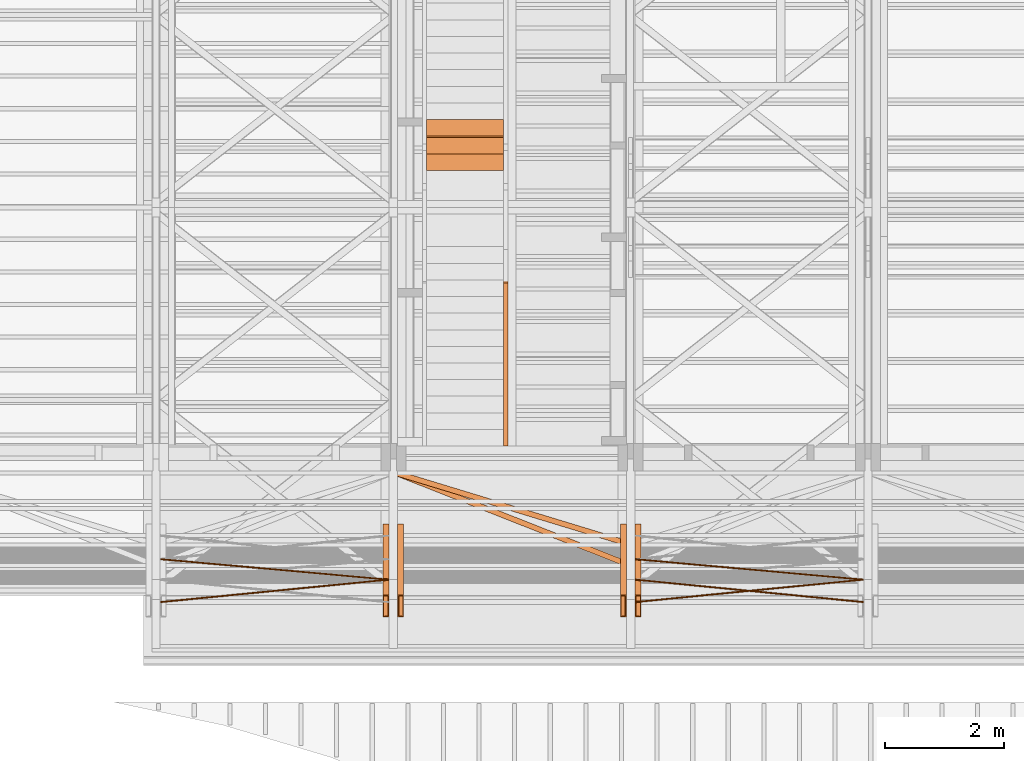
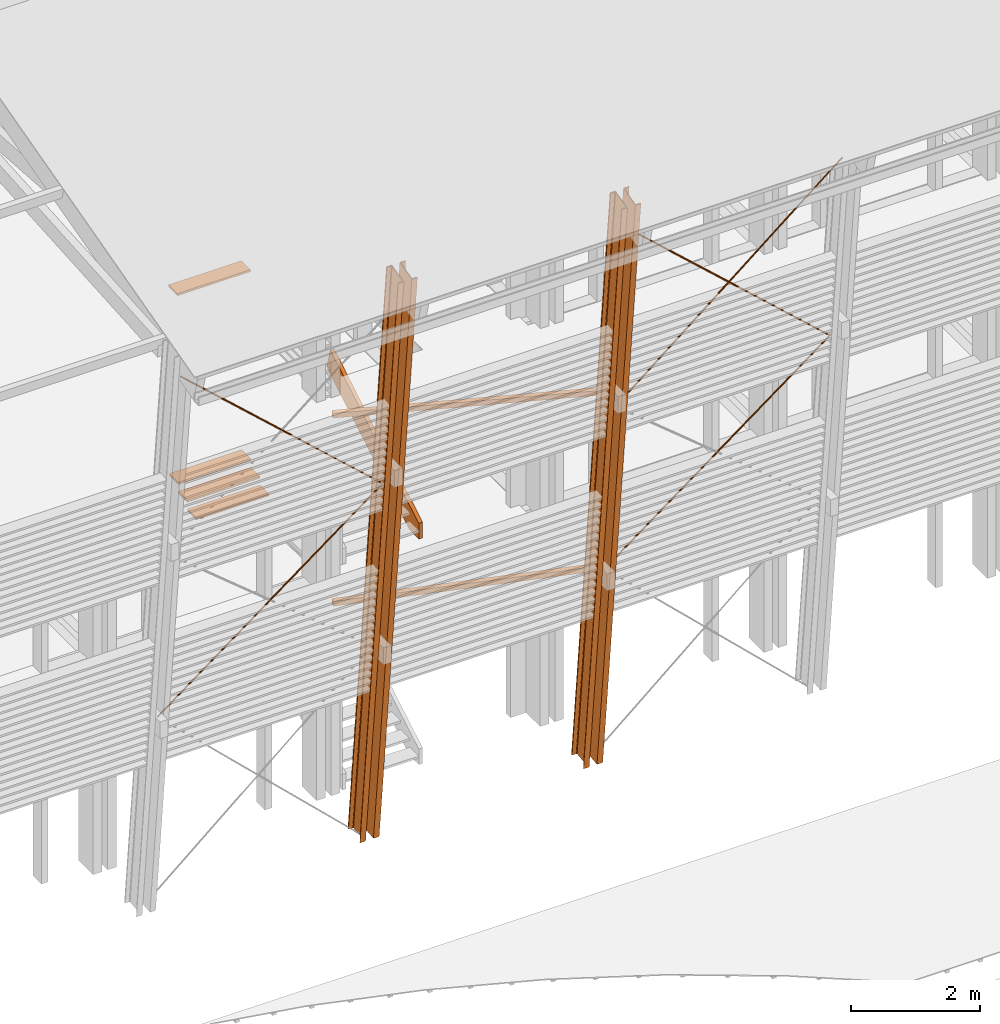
# One storey, part 37 of 48: 16 proxies.
"""IFC2X3 building model written with IfcOpenShell, lengths in metres."""

from ifc_helpers import new_model, si_unit, direction, frame, origin_with_axes, place, context, subcontext, project, spatial, faceted_brep, material, element, save


model = new_model("IFC2X3")

# Units and contexts
model_context = context("Model", 3, precision=1e-06, world=origin_with_axes(), true_north=direction((0.0, 1.0, 0.0)))
body_context = subcontext(model_context, "Body", "Model", "MODEL_VIEW")
ifc_project = project(units=[si_unit("LENGTHUNIT", "METRE"), si_unit("AREAUNIT", "SQUARE_METRE"), si_unit("VOLUMEUNIT", "CUBIC_METRE"), si_unit("PLANEANGLEUNIT", "RADIAN")], contexts=[model_context])

# Site, building, storey
site_placement = place(None, origin_with_axes())
site = spatial("IfcSite", under=ifc_project, at=site_placement, CompositionType="ELEMENT")
building_placement = place(site_placement, origin_with_axes())
building = spatial("IfcBuilding", under=site, at=building_placement, Name="Building 1", CompositionType="ELEMENT")
storey_placement = place(building_placement, origin_with_axes())
storey = spatial("IfcBuildingStorey", under=building, at=storey_placement, Name="Storey 1", CompositionType="ELEMENT", Elevation=0.0)

# Proxies
ifc_material_1 = material(Name="Acier")
proxy_1_placement = place(storey_placement, frame((45.5737433, -195.1364145, 4.089), z_axis=(-0.6523288, -0.0792259, 0.753784), x_axis=(0.7579361, -0.0681869, 0.6487553)))
element("IfcBuildingElementProxy", 1, at=proxy_1_placement, inside=storey, material=ifc_material_1, Name="CVLP", context=body_context, shape_type="Brep", body=[
    faceted_brep([(5.0558353, 0.0093969, -0.0034202), (0.0, 0.01, 0.0), (5.0558353, 0.01, 0.0), (0.0, 0.0093969, 0.0034202), (5.0558353, 0.0093969, 0.0034202), (0.0, 0.0076604, 0.0064279), (5.0558353, 0.0076604, 0.0064279), (0.0, 0.005, 0.0086603), (5.0558353, 0.005, 0.0086603), (0.0, 0.0017365, 0.0098481), (5.0558353, 0.0017365, 0.0098481), (0.0, -0.0017365, 0.0098481), (5.0558353, -0.0017365, 0.0098481), (0.0, -0.005, 0.0086603), (5.0558353, -0.005, 0.0086603), (0.0, -0.0076604, 0.0064279), (5.0558353, -0.0076604, 0.0064279), (0.0, -0.0093969, 0.0034202), (5.0558353, -0.0093969, 0.0034202), (0.0, -0.01, 0.0), (5.0558353, -0.01, 0.0), (0.0, -0.0093969, -0.0034202), (5.0558353, -0.0093969, -0.0034202), (0.0, -0.0076604, -0.0064279), (5.0558353, -0.0076604, -0.0064279), (0.0, -0.005, -0.0086603), (5.0558353, -0.005, -0.0086603), (0.0, -0.0017365, -0.0098481), (5.0558353, -0.0017365, -0.0098481), (0.0, 0.0017365, -0.0098481), (5.0558353, 0.0017365, -0.0098481), (0.0, 0.005, -0.0086603), (5.0558353, 0.005, -0.0086603), (0.0, 0.0076604, -0.0064279), (5.0558353, 0.0076604, -0.0064279), (0.0, 0.0093969, -0.0034202)], [[[0, 1, 2]], [[2, 1, 3]], [[2, 3, 4]], [[4, 3, 5]], [[4, 5, 6]], [[6, 5, 7]], [[6, 7, 8]], [[8, 7, 9]], [[8, 9, 10]], [[10, 9, 11]], [[10, 11, 12]], [[12, 11, 13]], [[12, 13, 14]], [[14, 13, 15]], [[14, 15, 16]], [[16, 15, 17]], [[16, 17, 18]], [[18, 17, 19]], [[18, 19, 20]], [[20, 19, 21]], [[20, 21, 22]], [[22, 21, 23]], [[22, 23, 24]], [[24, 23, 25]], [[24, 25, 26]], [[26, 25, 27]], [[26, 27, 28]], [[28, 27, 29]], [[28, 29, 30]], [[30, 29, 31]], [[30, 31, 32]], [[32, 31, 33]], [[32, 33, 34]], [[34, 33, 35]], [[34, 35, 0]], [[0, 35, 1]], [[10, 12, 8]], [[8, 12, 14]], [[8, 14, 6]], [[6, 14, 16]], [[6, 16, 4]], [[4, 16, 18]], [[4, 18, 2]], [[2, 18, 20]], [[2, 20, 0]], [[0, 20, 22]], [[0, 22, 34]], [[34, 22, 24]], [[34, 24, 32]], [[32, 24, 26]], [[32, 26, 30]], [[30, 26, 28]], [[29, 27, 31]], [[31, 27, 25]], [[31, 25, 33]], [[33, 25, 23]], [[33, 23, 35]], [[35, 23, 21]], [[35, 21, 1]], [[1, 21, 19]], [[1, 19, 3]], [[3, 19, 17]], [[3, 17, 5]], [[5, 17, 15]], [[5, 15, 7]], [[7, 15, 13]], [[7, 13, 9]], [[9, 13, 11]]]),
])
proxy_2_placement = place(storey_placement, frame((49.4057433, -195.4811564, 7.369), z_axis=(0.6859491, -0.0760601, 0.7236634), x_axis=(-0.7276496, -0.0717012, 0.6821914)))
element("IfcBuildingElementProxy", 2, at=proxy_2_placement, inside=storey, material=ifc_material_1, Name="CVLP", context=body_context, shape_type="Brep", body=[
    faceted_brep([(5.2662712, 0.0093969, -0.0034202), (0.0, 0.01, 0.0), (5.2662712, 0.01, 0.0), (0.0, 0.0093969, 0.0034202), (5.2662712, 0.0093969, 0.0034202), (0.0, 0.0076604, 0.0064279), (5.2662712, 0.0076604, 0.0064279), (0.0, 0.005, 0.0086603), (5.2662712, 0.005, 0.0086603), (0.0, 0.0017365, 0.0098481), (5.2662712, 0.0017365, 0.0098481), (0.0, -0.0017365, 0.0098481), (5.2662712, -0.0017365, 0.0098481), (0.0, -0.005, 0.0086603), (5.2662712, -0.005, 0.0086603), (0.0, -0.0076604, 0.0064279), (5.2662712, -0.0076604, 0.0064279), (0.0, -0.0093969, 0.0034202), (5.2662712, -0.0093969, 0.0034202), (0.0, -0.01, 0.0), (5.2662712, -0.01, 0.0), (0.0, -0.0093969, -0.0034202), (5.2662712, -0.0093969, -0.0034202), (0.0, -0.0076604, -0.0064279), (5.2662712, -0.0076604, -0.0064279), (0.0, -0.005, -0.0086603), (5.2662712, -0.005, -0.0086603), (0.0, -0.0017365, -0.0098481), (5.2662712, -0.0017365, -0.0098481), (0.0, 0.0017365, -0.0098481), (5.2662712, 0.0017365, -0.0098481), (0.0, 0.005, -0.0086603), (5.2662712, 0.005, -0.0086603), (0.0, 0.0076604, -0.0064279), (5.2662712, 0.0076604, -0.0064279), (0.0, 0.0093969, -0.0034202)], [[[0, 1, 2]], [[2, 1, 3]], [[2, 3, 4]], [[4, 3, 5]], [[4, 5, 6]], [[6, 5, 7]], [[6, 7, 8]], [[8, 7, 9]], [[8, 9, 10]], [[10, 9, 11]], [[10, 11, 12]], [[12, 11, 13]], [[12, 13, 14]], [[14, 13, 15]], [[14, 15, 16]], [[16, 15, 17]], [[16, 17, 18]], [[18, 17, 19]], [[18, 19, 20]], [[20, 19, 21]], [[20, 21, 22]], [[22, 21, 23]], [[22, 23, 24]], [[24, 23, 25]], [[24, 25, 26]], [[26, 25, 27]], [[26, 27, 28]], [[28, 27, 29]], [[28, 29, 30]], [[30, 29, 31]], [[30, 31, 32]], [[32, 31, 33]], [[32, 33, 34]], [[34, 33, 35]], [[34, 35, 0]], [[0, 35, 1]], [[10, 12, 8]], [[8, 12, 14]], [[8, 14, 6]], [[6, 14, 16]], [[6, 16, 4]], [[4, 16, 18]], [[4, 18, 2]], [[2, 18, 20]], [[2, 20, 0]], [[0, 20, 22]], [[0, 22, 34]], [[34, 22, 24]], [[34, 24, 32]], [[32, 24, 26]], [[32, 26, 30]], [[30, 26, 28]], [[29, 27, 31]], [[31, 27, 25]], [[31, 25, 33]], [[33, 25, 23]], [[33, 23, 35]], [[35, 23, 21]], [[35, 21, 1]], [[1, 21, 19]], [[1, 19, 3]], [[3, 19, 17]], [[3, 17, 5]], [[5, 17, 15]], [[5, 15, 7]], [[7, 15, 13]], [[7, 13, 9]], [[9, 13, 11]]]),
])
proxy_3_placement = place(storey_placement, frame((45.5737441, -195.4811564, 7.369), z_axis=(-0.6859491, -0.0760601, 0.7236634), x_axis=(0.7276496, -0.0717012, 0.6821914)))
element("IfcBuildingElementProxy", 3, at=proxy_3_placement, inside=storey, material=ifc_material_1, Name="CVLP", context=body_context, shape_type="Brep", body=[
    faceted_brep([(5.2662712, -0.0093969, 0.0034202), (0.0, -0.01, 0.0), (5.2662712, -0.01, 0.0), (0.0, -0.0093969, -0.0034202), (5.2662712, -0.0093969, -0.0034202), (0.0, -0.0076604, -0.0064279), (5.2662712, -0.0076604, -0.0064279), (0.0, -0.005, -0.0086603), (5.2662712, -0.005, -0.0086603), (0.0, -0.0017365, -0.0098481), (5.2662712, -0.0017365, -0.0098481), (0.0, 0.0017365, -0.0098481), (5.2662712, 0.0017365, -0.0098481), (0.0, 0.005, -0.0086603), (5.2662712, 0.005, -0.0086603), (0.0, 0.0076604, -0.0064279), (5.2662712, 0.0076604, -0.0064279), (0.0, 0.0093969, -0.0034202), (5.2662712, 0.0093969, -0.0034202), (0.0, 0.01, 0.0), (5.2662712, 0.01, 0.0), (0.0, 0.0093969, 0.0034202), (5.2662712, 0.0093969, 0.0034202), (0.0, 0.0076604, 0.0064279), (5.2662712, 0.0076604, 0.0064279), (0.0, 0.005, 0.0086603), (5.2662712, 0.005, 0.0086603), (0.0, 0.0017365, 0.0098481), (5.2662712, 0.0017365, 0.0098481), (0.0, -0.0017365, 0.0098481), (5.2662712, -0.0017365, 0.0098481), (0.0, -0.005, 0.0086603), (5.2662712, -0.005, 0.0086603), (0.0, -0.0076604, 0.0064279), (5.2662712, -0.0076604, 0.0064279), (0.0, -0.0093969, 0.0034202)], [[[0, 1, 2]], [[2, 1, 3]], [[2, 3, 4]], [[4, 3, 5]], [[4, 5, 6]], [[6, 5, 7]], [[6, 7, 8]], [[8, 7, 9]], [[8, 9, 10]], [[10, 9, 11]], [[10, 11, 12]], [[12, 11, 13]], [[12, 13, 14]], [[14, 13, 15]], [[14, 15, 16]], [[16, 15, 17]], [[16, 17, 18]], [[18, 17, 19]], [[18, 19, 20]], [[20, 19, 21]], [[20, 21, 22]], [[22, 21, 23]], [[22, 23, 24]], [[24, 23, 25]], [[24, 25, 26]], [[26, 25, 27]], [[26, 27, 28]], [[28, 27, 29]], [[28, 29, 30]], [[30, 29, 31]], [[30, 31, 32]], [[32, 31, 33]], [[32, 33, 34]], [[34, 33, 35]], [[34, 35, 0]], [[0, 35, 1]], [[10, 12, 8]], [[8, 12, 14]], [[8, 14, 6]], [[6, 14, 16]], [[6, 16, 4]], [[4, 16, 18]], [[4, 18, 2]], [[2, 18, 20]], [[2, 20, 0]], [[0, 20, 22]], [[0, 22, 34]], [[34, 22, 24]], [[34, 24, 32]], [[32, 24, 26]], [[32, 26, 30]], [[30, 26, 28]], [[29, 27, 31]], [[31, 27, 25]], [[31, 25, 33]], [[33, 25, 23]], [[33, 23, 35]], [[35, 23, 21]], [[35, 21, 1]], [[1, 21, 19]], [[1, 19, 3]], [[3, 19, 17]], [[3, 17, 5]], [[5, 17, 15]], [[5, 15, 7]], [[7, 15, 13]], [[7, 13, 9]], [[9, 13, 11]]]),
])
proxy_4_placement = place(storey_placement, frame((45.3687437, -195.9301471, 11.6408612), z_axis=(0.0, 0.9945219, 0.1045285), x_axis=(0.0, 0.1045285, -0.9945219)))
element("IfcBuildingElementProxy", 4, at=proxy_4_placement, inside=storey, material=ifc_material_1, Name="Poteau", context=body_context, shape_type="Brep", body=[
    faceted_brep([(0.0588262, 0.0506328, -0.181414), (0.0592057, 0.051, -0.18381), (0.0579402, 0.0433995, -0.17582), (0.0601861, 0.051, -0.19), (0.0574199, -0.022299, -0.172535), (0.0601861, -0.051, -0.19), (0.0572658, -0.0270483, -0.1715622), (0.0568935, -0.0312883, -0.1692116), (0.0038489, -0.0346296, 0.165699), (0.0045382, -0.0367655, 0.161347), (0.0, -0.051, 0.19), (0.0052972, -0.0375, 0.156555), (0.0548889, -0.0375, -0.156555), (0.0556479, -0.0367655, -0.161347), (0.0009804, 0.051, 0.18381), (0.0022459, 0.0433995, 0.17582), (0.0, 0.051, 0.19), (0.0027662, -0.022299, 0.172535), (0.0029203, -0.0270483, 0.1715622), (0.0032926, -0.0312883, 0.1692116), (0.0013599, 0.0506328, 0.181414), (0.0017045, 0.0495648, 0.179238), (0.0019827, 0.0478941, 0.1774817), (0.0021689, 0.0457742, 0.1763064), (0.0563372, -0.0346296, -0.165699), (0.0580172, 0.0457742, -0.1763064), (0.0582034, 0.0478941, -0.1774817), (0.0584816, 0.0495648, -0.179238), (11.420672, 0.0433995, 0.17582), (11.420672, 0.0457742, 0.1763064), (11.420672, 0.0478941, 0.1774817), (11.420672, 0.0495648, 0.179238), (11.420672, 0.0506328, 0.181414), (11.420672, 0.051, 0.18381), (11.420672, 0.051, 0.19), (11.420672, -0.051, 0.19), (11.420672, -0.051, -0.19), (11.420672, 0.051, -0.19), (11.420672, 0.051, -0.18381), (11.420672, 0.0506328, -0.181414), (11.420672, 0.0495648, -0.179238), (11.420672, 0.0478941, -0.1774817), (11.420672, 0.0457742, -0.1763064), (11.420672, 0.0433995, -0.17582), (11.420672, -0.022299, -0.172535), (11.420672, -0.0270483, -0.1715622), (11.420672, -0.0312883, -0.1692116), (11.420672, -0.0346296, -0.165699), (11.420672, -0.0367655, -0.161347), (11.420672, -0.0375, -0.156555), (11.420672, -0.0375, 0.156555), (11.420672, -0.0367655, 0.161347), (11.420672, -0.0346296, 0.165699), (11.420672, -0.0312883, 0.1692116), (11.420672, -0.0270483, 0.1715622), (11.420672, -0.022299, 0.172535)], [[[0, 1, 2]], [[2, 1, 3]], [[2, 3, 4]], [[4, 3, 5]], [[4, 5, 6]], [[6, 5, 7]], [[8, 9, 10]], [[10, 9, 11]], [[10, 11, 5]], [[5, 11, 12]], [[5, 12, 13]], [[14, 15, 16]], [[16, 15, 17]], [[16, 17, 10]], [[10, 17, 18]], [[10, 18, 19]], [[14, 20, 15]], [[15, 20, 21]], [[15, 21, 22]], [[22, 23, 15]], [[19, 8, 10]], [[13, 24, 5]], [[5, 24, 7]], [[25, 26, 2]], [[2, 26, 27]], [[2, 27, 0]], [[15, 23, 28]], [[28, 23, 29]], [[23, 22, 29]], [[29, 22, 30]], [[22, 21, 30]], [[30, 21, 31]], [[21, 20, 31]], [[31, 20, 32]], [[20, 14, 32]], [[32, 14, 33]], [[16, 34, 14]], [[14, 34, 33]], [[10, 5, 35]], [[35, 5, 36]], [[5, 3, 36]], [[36, 3, 37]], [[1, 38, 3]], [[3, 38, 37]], [[1, 0, 38]], [[38, 0, 39]], [[0, 27, 39]], [[39, 27, 40]], [[27, 26, 40]], [[40, 26, 41]], [[26, 25, 41]], [[41, 25, 42]], [[25, 2, 42]], [[42, 2, 43]], [[4, 44, 2]], [[2, 44, 43]], [[4, 6, 44]], [[44, 6, 45]], [[6, 7, 45]], [[45, 7, 46]], [[7, 24, 46]], [[46, 24, 47]], [[24, 13, 47]], [[47, 13, 48]], [[13, 12, 48]], [[48, 12, 49]], [[11, 50, 12]], [[12, 50, 49]], [[11, 9, 50]], [[50, 9, 51]], [[9, 8, 51]], [[51, 8, 52]], [[8, 19, 52]], [[52, 19, 53]], [[19, 18, 53]], [[53, 18, 54]], [[18, 17, 54]], [[54, 17, 55]], [[15, 28, 17]], [[17, 28, 55]], [[35, 34, 10]], [[10, 34, 16]], [[48, 49, 36]], [[36, 49, 50]], [[36, 50, 35]], [[35, 50, 51]], [[35, 51, 52]], [[41, 42, 38]], [[38, 42, 43]], [[38, 43, 37]], [[37, 43, 44]], [[37, 44, 36]], [[36, 44, 45]], [[36, 45, 46]], [[39, 40, 38]], [[38, 40, 41]], [[46, 47, 36]], [[36, 47, 48]], [[52, 53, 35]], [[35, 53, 54]], [[35, 54, 55]], [[35, 55, 34]], [[34, 55, 28]], [[34, 28, 33]], [[33, 28, 32]], [[29, 30, 28]], [[28, 30, 31]], [[28, 31, 32]]]),
])
proxy_5_placement = place(storey_placement, frame((41.4057433, -195.4811564, 7.369), z_axis=(0.6859491, -0.0760601, 0.7236634), x_axis=(-0.7276496, -0.0717012, 0.6821914)))
element("IfcBuildingElementProxy", 5, at=proxy_5_placement, inside=storey, material=ifc_material_1, Name="CVLP", context=body_context, shape_type="Brep", body=[
    faceted_brep([(5.2662712, 0.0093969, -0.0034202), (0.0, 0.01, 0.0), (5.2662712, 0.01, 0.0), (0.0, 0.0093969, 0.0034202), (5.2662712, 0.0093969, 0.0034202), (0.0, 0.0076604, 0.0064279), (5.2662712, 0.0076604, 0.0064279), (0.0, 0.005, 0.0086603), (5.2662712, 0.005, 0.0086603), (0.0, 0.0017365, 0.0098481), (5.2662712, 0.0017365, 0.0098481), (0.0, -0.0017365, 0.0098481), (5.2662712, -0.0017365, 0.0098481), (0.0, -0.005, 0.0086603), (5.2662712, -0.005, 0.0086603), (0.0, -0.0076604, 0.0064279), (5.2662712, -0.0076604, 0.0064279), (0.0, -0.0093969, 0.0034202), (5.2662712, -0.0093969, 0.0034202), (0.0, -0.01, 0.0), (5.2662712, -0.01, 0.0), (0.0, -0.0093969, -0.0034202), (5.2662712, -0.0093969, -0.0034202), (0.0, -0.0076604, -0.0064279), (5.2662712, -0.0076604, -0.0064279), (0.0, -0.005, -0.0086603), (5.2662712, -0.005, -0.0086603), (0.0, -0.0017365, -0.0098481), (5.2662712, -0.0017365, -0.0098481), (0.0, 0.0017365, -0.0098481), (5.2662712, 0.0017365, -0.0098481), (0.0, 0.005, -0.0086603), (5.2662712, 0.005, -0.0086603), (0.0, 0.0076604, -0.0064279), (5.2662712, 0.0076604, -0.0064279), (0.0, 0.0093969, -0.0034202)], [[[0, 1, 2]], [[2, 1, 3]], [[2, 3, 4]], [[4, 3, 5]], [[4, 5, 6]], [[6, 5, 7]], [[6, 7, 8]], [[8, 7, 9]], [[8, 9, 10]], [[10, 9, 11]], [[10, 11, 12]], [[12, 11, 13]], [[12, 13, 14]], [[14, 13, 15]], [[14, 15, 16]], [[16, 15, 17]], [[16, 17, 18]], [[18, 17, 19]], [[18, 19, 20]], [[20, 19, 21]], [[20, 21, 22]], [[22, 21, 23]], [[22, 23, 24]], [[24, 23, 25]], [[24, 25, 26]], [[26, 25, 27]], [[26, 27, 28]], [[28, 27, 29]], [[28, 29, 30]], [[30, 29, 31]], [[30, 31, 32]], [[32, 31, 33]], [[32, 33, 34]], [[34, 33, 35]], [[34, 35, 0]], [[0, 35, 1]], [[10, 12, 8]], [[8, 12, 14]], [[8, 14, 6]], [[6, 14, 16]], [[6, 16, 4]], [[4, 16, 18]], [[4, 18, 2]], [[2, 18, 20]], [[2, 20, 0]], [[0, 20, 22]], [[0, 22, 34]], [[34, 22, 24]], [[34, 24, 32]], [[32, 24, 26]], [[32, 26, 30]], [[30, 26, 28]], [[29, 27, 31]], [[31, 27, 25]], [[31, 25, 33]], [[33, 25, 23]], [[33, 23, 35]], [[35, 23, 21]], [[35, 21, 1]], [[1, 21, 19]], [[1, 19, 3]], [[3, 19, 17]], [[3, 17, 5]], [[5, 17, 15]], [[5, 15, 7]], [[7, 15, 13]], [[7, 13, 9]], [[9, 13, 11]]]),
])
proxy_6_placement = place(storey_placement, frame((37.5737433, -195.1364145, 4.089), z_axis=(-0.6523288, -0.0792259, 0.753784), x_axis=(0.7579361, -0.0681869, 0.6487553)))
element("IfcBuildingElementProxy", 6, at=proxy_6_placement, inside=storey, material=ifc_material_1, Name="CVLP", context=body_context, shape_type="Brep", body=[
    faceted_brep([(5.0558353, 0.0093969, -0.0034202), (0.0, 0.01, 0.0), (5.0558353, 0.01, 0.0), (0.0, 0.0093969, 0.0034202), (5.0558353, 0.0093969, 0.0034202), (0.0, 0.0076604, 0.0064279), (5.0558353, 0.0076604, 0.0064279), (0.0, 0.005, 0.0086603), (5.0558353, 0.005, 0.0086603), (0.0, 0.0017365, 0.0098481), (5.0558353, 0.0017365, 0.0098481), (0.0, -0.0017365, 0.0098481), (5.0558353, -0.0017365, 0.0098481), (0.0, -0.005, 0.0086603), (5.0558353, -0.005, 0.0086603), (0.0, -0.0076604, 0.0064279), (5.0558353, -0.0076604, 0.0064279), (0.0, -0.0093969, 0.0034202), (5.0558353, -0.0093969, 0.0034202), (0.0, -0.01, 0.0), (5.0558353, -0.01, 0.0), (0.0, -0.0093969, -0.0034202), (5.0558353, -0.0093969, -0.0034202), (0.0, -0.0076604, -0.0064279), (5.0558353, -0.0076604, -0.0064279), (0.0, -0.005, -0.0086603), (5.0558353, -0.005, -0.0086603), (0.0, -0.0017365, -0.0098481), (5.0558353, -0.0017365, -0.0098481), (0.0, 0.0017365, -0.0098481), (5.0558353, 0.0017365, -0.0098481), (0.0, 0.005, -0.0086603), (5.0558353, 0.005, -0.0086603), (0.0, 0.0076604, -0.0064279), (5.0558353, 0.0076604, -0.0064279), (0.0, 0.0093969, -0.0034202)], [[[0, 1, 2]], [[2, 1, 3]], [[2, 3, 4]], [[4, 3, 5]], [[4, 5, 6]], [[6, 5, 7]], [[6, 7, 8]], [[8, 7, 9]], [[8, 9, 10]], [[10, 9, 11]], [[10, 11, 12]], [[12, 11, 13]], [[12, 13, 14]], [[14, 13, 15]], [[14, 15, 16]], [[16, 15, 17]], [[16, 17, 18]], [[18, 17, 19]], [[18, 19, 20]], [[20, 19, 21]], [[20, 21, 22]], [[22, 21, 23]], [[22, 23, 24]], [[24, 23, 25]], [[24, 25, 26]], [[26, 25, 27]], [[26, 27, 28]], [[28, 27, 29]], [[28, 29, 30]], [[30, 29, 31]], [[30, 31, 32]], [[32, 31, 33]], [[32, 33, 34]], [[34, 33, 35]], [[34, 35, 0]], [[0, 35, 1]], [[10, 12, 8]], [[8, 12, 14]], [[8, 14, 6]], [[6, 14, 16]], [[6, 16, 4]], [[4, 16, 18]], [[4, 18, 2]], [[2, 18, 20]], [[2, 20, 0]], [[0, 20, 22]], [[0, 22, 34]], [[34, 22, 24]], [[34, 24, 32]], [[32, 24, 26]], [[32, 26, 30]], [[30, 26, 28]], [[29, 27, 31]], [[31, 27, 25]], [[31, 25, 33]], [[33, 25, 23]], [[33, 23, 35]], [[35, 23, 21]], [[35, 21, 1]], [[1, 21, 19]], [[1, 19, 3]], [[3, 19, 17]], [[3, 17, 5]], [[5, 17, 15]], [[5, 15, 7]], [[7, 15, 13]], [[7, 13, 9]], [[9, 13, 11]]]),
])
proxy_7_placement = place(storey_placement, frame((41.6107437, -195.9301471, 11.6408612), z_axis=(0.0, 0.9945219, 0.1045285), x_axis=(0.0, 0.1045285, -0.9945219)))
element("IfcBuildingElementProxy", 7, at=proxy_7_placement, inside=storey, material=ifc_material_1, Name="Poteau", context=body_context, shape_type="Brep", body=[
    faceted_brep([(0.0556479, 0.0367655, -0.161347), (0.0548889, 0.0375, -0.156555), (0.0601861, 0.051, -0.19), (0.0052972, 0.0375, 0.156555), (0.0, 0.051, 0.19), (0.0045382, 0.0367655, 0.161347), (0.0038489, 0.0346296, 0.165699), (0.0592057, -0.051, -0.18381), (0.0579402, -0.0433995, -0.17582), (0.0601861, -0.051, -0.19), (0.0574199, 0.022299, -0.172535), (0.0572658, 0.0270483, -0.1715622), (0.0568935, 0.0312883, -0.1692116), (0.0588262, -0.0506328, -0.181414), (0.0584816, -0.0495648, -0.179238), (0.0582034, -0.0478941, -0.1774817), (0.0580172, -0.0457742, -0.1763064), (0.0563372, 0.0346296, -0.165699), (0.0032926, 0.0312883, 0.1692116), (0.0029203, 0.0270483, 0.1715622), (0.0027662, 0.022299, 0.172535), (0.0, -0.051, 0.19), (0.0022459, -0.0433995, 0.17582), (0.0009804, -0.051, 0.18381), (0.0013599, -0.0506328, 0.181414), (0.0021689, -0.0457742, 0.1763064), (0.0019827, -0.0478941, 0.1774817), (0.0017045, -0.0495648, 0.179238), (11.420672, 0.0375, -0.156555), (11.420672, 0.0367655, -0.161347), (11.420672, 0.0346296, -0.165699), (11.420672, 0.0312883, -0.1692116), (11.420672, 0.0270483, -0.1715622), (11.420672, 0.022299, -0.172535), (11.420672, -0.0433995, -0.17582), (11.420672, -0.0457742, -0.1763064), (11.420672, -0.0478941, -0.1774817), (11.420672, -0.0495648, -0.179238), (11.420672, -0.0506328, -0.181414), (11.420672, -0.051, -0.18381), (11.420672, -0.051, -0.19), (11.420672, 0.051, -0.19), (11.420672, 0.051, 0.19), (11.420672, -0.051, 0.19), (11.420672, -0.051, 0.18381), (11.420672, -0.0506328, 0.181414), (11.420672, -0.0495648, 0.179238), (11.420672, -0.0478941, 0.1774817), (11.420672, -0.0457742, 0.1763064), (11.420672, -0.0433995, 0.17582), (11.420672, 0.022299, 0.172535), (11.420672, 0.0270483, 0.1715622), (11.420672, 0.0312883, 0.1692116), (11.420672, 0.0346296, 0.165699), (11.420672, 0.0367655, 0.161347), (11.420672, 0.0375, 0.156555)], [[[0, 1, 2]], [[2, 1, 3]], [[2, 3, 4]], [[4, 3, 5]], [[4, 5, 6]], [[7, 8, 9]], [[9, 8, 10]], [[9, 10, 2]], [[2, 10, 11]], [[2, 11, 12]], [[7, 13, 8]], [[8, 13, 14]], [[8, 14, 15]], [[15, 16, 8]], [[12, 17, 2]], [[2, 17, 0]], [[6, 18, 4]], [[4, 18, 19]], [[4, 19, 20]], [[4, 20, 21]], [[21, 20, 22]], [[21, 22, 23]], [[23, 22, 24]], [[25, 26, 22]], [[22, 26, 27]], [[22, 27, 24]], [[1, 0, 28]], [[28, 0, 29]], [[0, 17, 29]], [[29, 17, 30]], [[17, 12, 30]], [[30, 12, 31]], [[12, 11, 31]], [[31, 11, 32]], [[11, 10, 32]], [[32, 10, 33]], [[10, 8, 33]], [[33, 8, 34]], [[8, 16, 34]], [[34, 16, 35]], [[16, 15, 35]], [[35, 15, 36]], [[15, 14, 36]], [[36, 14, 37]], [[14, 13, 37]], [[37, 13, 38]], [[13, 7, 38]], [[38, 7, 39]], [[7, 9, 39]], [[39, 9, 40]], [[9, 2, 40]], [[40, 2, 41]], [[4, 42, 2]], [[2, 42, 41]], [[43, 42, 21]], [[21, 42, 4]], [[21, 23, 43]], [[43, 23, 44]], [[23, 24, 44]], [[44, 24, 45]], [[24, 27, 45]], [[45, 27, 46]], [[27, 26, 46]], [[46, 26, 47]], [[26, 25, 47]], [[47, 25, 48]], [[25, 22, 48]], [[48, 22, 49]], [[22, 20, 49]], [[49, 20, 50]], [[20, 19, 50]], [[50, 19, 51]], [[19, 18, 51]], [[51, 18, 52]], [[18, 6, 52]], [[52, 6, 53]], [[6, 5, 53]], [[53, 5, 54]], [[5, 3, 54]], [[54, 3, 55]], [[3, 1, 55]], [[55, 1, 28]], [[53, 54, 42]], [[42, 54, 55]], [[42, 55, 41]], [[41, 55, 28]], [[41, 28, 29]], [[44, 49, 43]], [[43, 49, 50]], [[43, 50, 42]], [[42, 50, 51]], [[42, 51, 52]], [[44, 45, 49]], [[49, 45, 46]], [[49, 46, 47]], [[47, 48, 49]], [[52, 53, 42]], [[29, 30, 41]], [[41, 30, 31]], [[41, 31, 32]], [[32, 33, 41]], [[41, 33, 40]], [[33, 34, 40]], [[40, 34, 39]], [[34, 35, 39]], [[39, 35, 36]], [[39, 36, 37]], [[37, 38, 39]]]),
])
proxy_8_placement = place(storey_placement, frame((41.3687437, -195.9301471, 11.6408612), z_axis=(0.0, 0.9945219, 0.1045285), x_axis=(0.0, 0.1045285, -0.9945219)))
element("IfcBuildingElementProxy", 8, at=proxy_8_placement, inside=storey, material=ifc_material_1, Name="Poteau", context=body_context, shape_type="Brep", body=[
    faceted_brep([(0.0588262, 0.0506328, -0.181414), (0.0592057, 0.051, -0.18381), (0.0579402, 0.0433995, -0.17582), (0.0601861, 0.051, -0.19), (0.0574199, -0.022299, -0.172535), (0.0601861, -0.051, -0.19), (0.0572658, -0.0270483, -0.1715622), (0.0568935, -0.0312883, -0.1692116), (0.0038489, -0.0346296, 0.165699), (0.0045382, -0.0367655, 0.161347), (0.0, -0.051, 0.19), (0.0052972, -0.0375, 0.156555), (0.0548889, -0.0375, -0.156555), (0.0556479, -0.0367655, -0.161347), (0.0009804, 0.051, 0.18381), (0.0022459, 0.0433995, 0.17582), (0.0, 0.051, 0.19), (0.0027662, -0.022299, 0.172535), (0.0029203, -0.0270483, 0.1715622), (0.0032926, -0.0312883, 0.1692116), (0.0013599, 0.0506328, 0.181414), (0.0017045, 0.0495648, 0.179238), (0.0019827, 0.0478941, 0.1774817), (0.0021689, 0.0457742, 0.1763064), (0.0563372, -0.0346296, -0.165699), (0.0580172, 0.0457742, -0.1763064), (0.0582034, 0.0478941, -0.1774817), (0.0584816, 0.0495648, -0.179238), (11.420672, 0.0433995, 0.17582), (11.420672, 0.0457742, 0.1763064), (11.420672, 0.0478941, 0.1774817), (11.420672, 0.0495648, 0.179238), (11.420672, 0.0506328, 0.181414), (11.420672, 0.051, 0.18381), (11.420672, 0.051, 0.19), (11.420672, -0.051, 0.19), (11.420672, -0.051, -0.19), (11.420672, 0.051, -0.19), (11.420672, 0.051, -0.18381), (11.420672, 0.0506328, -0.181414), (11.420672, 0.0495648, -0.179238), (11.420672, 0.0478941, -0.1774817), (11.420672, 0.0457742, -0.1763064), (11.420672, 0.0433995, -0.17582), (11.420672, -0.022299, -0.172535), (11.420672, -0.0270483, -0.1715622), (11.420672, -0.0312883, -0.1692116), (11.420672, -0.0346296, -0.165699), (11.420672, -0.0367655, -0.161347), (11.420672, -0.0375, -0.156555), (11.420672, -0.0375, 0.156555), (11.420672, -0.0367655, 0.161347), (11.420672, -0.0346296, 0.165699), (11.420672, -0.0312883, 0.1692116), (11.420672, -0.0270483, 0.1715622), (11.420672, -0.022299, 0.172535)], [[[0, 1, 2]], [[2, 1, 3]], [[2, 3, 4]], [[4, 3, 5]], [[4, 5, 6]], [[6, 5, 7]], [[8, 9, 10]], [[10, 9, 11]], [[10, 11, 5]], [[5, 11, 12]], [[5, 12, 13]], [[14, 15, 16]], [[16, 15, 17]], [[16, 17, 10]], [[10, 17, 18]], [[10, 18, 19]], [[14, 20, 15]], [[15, 20, 21]], [[15, 21, 22]], [[22, 23, 15]], [[19, 8, 10]], [[13, 24, 5]], [[5, 24, 7]], [[25, 26, 2]], [[2, 26, 27]], [[2, 27, 0]], [[15, 23, 28]], [[28, 23, 29]], [[23, 22, 29]], [[29, 22, 30]], [[22, 21, 30]], [[30, 21, 31]], [[21, 20, 31]], [[31, 20, 32]], [[20, 14, 32]], [[32, 14, 33]], [[16, 34, 14]], [[14, 34, 33]], [[10, 5, 35]], [[35, 5, 36]], [[5, 3, 36]], [[36, 3, 37]], [[1, 38, 3]], [[3, 38, 37]], [[1, 0, 38]], [[38, 0, 39]], [[0, 27, 39]], [[39, 27, 40]], [[27, 26, 40]], [[40, 26, 41]], [[26, 25, 41]], [[41, 25, 42]], [[25, 2, 42]], [[42, 2, 43]], [[4, 44, 2]], [[2, 44, 43]], [[4, 6, 44]], [[44, 6, 45]], [[6, 7, 45]], [[45, 7, 46]], [[7, 24, 46]], [[46, 24, 47]], [[24, 13, 47]], [[47, 13, 48]], [[13, 12, 48]], [[48, 12, 49]], [[11, 50, 12]], [[12, 50, 49]], [[11, 9, 50]], [[50, 9, 51]], [[9, 8, 51]], [[51, 8, 52]], [[8, 19, 52]], [[52, 19, 53]], [[19, 18, 53]], [[53, 18, 54]], [[18, 17, 54]], [[54, 17, 55]], [[15, 28, 17]], [[17, 28, 55]], [[35, 34, 10]], [[10, 34, 16]], [[48, 49, 36]], [[36, 49, 50]], [[36, 50, 35]], [[35, 50, 51]], [[35, 51, 52]], [[41, 42, 38]], [[38, 42, 43]], [[38, 43, 37]], [[37, 43, 44]], [[37, 44, 36]], [[36, 44, 45]], [[36, 45, 46]], [[39, 40, 38]], [[38, 40, 41]], [[46, 47, 36]], [[36, 47, 48]], [[52, 53, 35]], [[35, 53, 54]], [[35, 54, 55]], [[35, 55, 34]], [[34, 55, 28]], [[34, 28, 33]], [[33, 28, 32]], [[29, 30, 28]], [[28, 30, 31]], [[28, 31, 32]]]),
])
proxy_9_placement = place(storey_placement, frame((45.6107437, -195.9301471, 11.6408612), z_axis=(0.0, 0.9945219, 0.1045285), x_axis=(0.0, 0.1045285, -0.9945219)))
element("IfcBuildingElementProxy", 9, at=proxy_9_placement, inside=storey, material=ifc_material_1, Name="Poteau", context=body_context, shape_type="Brep", body=[
    faceted_brep([(0.0556479, 0.0367655, -0.161347), (0.0548889, 0.0375, -0.156555), (0.0601861, 0.051, -0.19), (0.0052972, 0.0375, 0.156555), (0.0, 0.051, 0.19), (0.0045382, 0.0367655, 0.161347), (0.0038489, 0.0346296, 0.165699), (0.0592057, -0.051, -0.18381), (0.0579402, -0.0433995, -0.17582), (0.0601861, -0.051, -0.19), (0.0574199, 0.022299, -0.172535), (0.0572658, 0.0270483, -0.1715622), (0.0568935, 0.0312883, -0.1692116), (0.0588262, -0.0506328, -0.181414), (0.0584816, -0.0495648, -0.179238), (0.0582034, -0.0478941, -0.1774817), (0.0580172, -0.0457742, -0.1763064), (0.0563372, 0.0346296, -0.165699), (0.0032926, 0.0312883, 0.1692116), (0.0029203, 0.0270483, 0.1715622), (0.0027662, 0.022299, 0.172535), (0.0, -0.051, 0.19), (0.0022459, -0.0433995, 0.17582), (0.0009804, -0.051, 0.18381), (0.0013599, -0.0506328, 0.181414), (0.0021689, -0.0457742, 0.1763064), (0.0019827, -0.0478941, 0.1774817), (0.0017045, -0.0495648, 0.179238), (11.420672, 0.0375, -0.156555), (11.420672, 0.0367655, -0.161347), (11.420672, 0.0346296, -0.165699), (11.420672, 0.0312883, -0.1692116), (11.420672, 0.0270483, -0.1715622), (11.420672, 0.022299, -0.172535), (11.420672, -0.0433995, -0.17582), (11.420672, -0.0457742, -0.1763064), (11.420672, -0.0478941, -0.1774817), (11.420672, -0.0495648, -0.179238), (11.420672, -0.0506328, -0.181414), (11.420672, -0.051, -0.18381), (11.420672, -0.051, -0.19), (11.420672, 0.051, -0.19), (11.420672, 0.051, 0.19), (11.420672, -0.051, 0.19), (11.420672, -0.051, 0.18381), (11.420672, -0.0506328, 0.181414), (11.420672, -0.0495648, 0.179238), (11.420672, -0.0478941, 0.1774817), (11.420672, -0.0457742, 0.1763064), (11.420672, -0.0433995, 0.17582), (11.420672, 0.022299, 0.172535), (11.420672, 0.0270483, 0.1715622), (11.420672, 0.0312883, 0.1692116), (11.420672, 0.0346296, 0.165699), (11.420672, 0.0367655, 0.161347), (11.420672, 0.0375, 0.156555)], [[[0, 1, 2]], [[2, 1, 3]], [[2, 3, 4]], [[4, 3, 5]], [[4, 5, 6]], [[7, 8, 9]], [[9, 8, 10]], [[9, 10, 2]], [[2, 10, 11]], [[2, 11, 12]], [[7, 13, 8]], [[8, 13, 14]], [[8, 14, 15]], [[15, 16, 8]], [[12, 17, 2]], [[2, 17, 0]], [[6, 18, 4]], [[4, 18, 19]], [[4, 19, 20]], [[4, 20, 21]], [[21, 20, 22]], [[21, 22, 23]], [[23, 22, 24]], [[25, 26, 22]], [[22, 26, 27]], [[22, 27, 24]], [[1, 0, 28]], [[28, 0, 29]], [[0, 17, 29]], [[29, 17, 30]], [[17, 12, 30]], [[30, 12, 31]], [[12, 11, 31]], [[31, 11, 32]], [[11, 10, 32]], [[32, 10, 33]], [[10, 8, 33]], [[33, 8, 34]], [[8, 16, 34]], [[34, 16, 35]], [[16, 15, 35]], [[35, 15, 36]], [[15, 14, 36]], [[36, 14, 37]], [[14, 13, 37]], [[37, 13, 38]], [[13, 7, 38]], [[38, 7, 39]], [[7, 9, 39]], [[39, 9, 40]], [[9, 2, 40]], [[40, 2, 41]], [[4, 42, 2]], [[2, 42, 41]], [[43, 42, 21]], [[21, 42, 4]], [[21, 23, 43]], [[43, 23, 44]], [[23, 24, 44]], [[44, 24, 45]], [[24, 27, 45]], [[45, 27, 46]], [[27, 26, 46]], [[46, 26, 47]], [[26, 25, 47]], [[47, 25, 48]], [[25, 22, 48]], [[48, 22, 49]], [[22, 20, 49]], [[49, 20, 50]], [[20, 19, 50]], [[50, 19, 51]], [[19, 18, 51]], [[51, 18, 52]], [[18, 6, 52]], [[52, 6, 53]], [[6, 5, 53]], [[53, 5, 54]], [[5, 3, 54]], [[54, 3, 55]], [[3, 1, 55]], [[55, 1, 28]], [[53, 54, 42]], [[42, 54, 55]], [[42, 55, 41]], [[41, 55, 28]], [[41, 28, 29]], [[44, 49, 43]], [[43, 49, 50]], [[43, 50, 42]], [[42, 50, 51]], [[42, 51, 52]], [[44, 45, 49]], [[49, 45, 46]], [[49, 46, 47]], [[47, 48, 49]], [[52, 53, 42]], [[29, 30, 41]], [[41, 30, 31]], [[41, 31, 32]], [[32, 33, 41]], [[41, 33, 40]], [[33, 34, 40]], [[40, 34, 39]], [[34, 35, 39]], [[39, 35, 36]], [[39, 36, 37]], [[37, 38, 39]]]),
])
ifc_material_2 = material(Name="Moabi")
proxy_10_placement = place(storey_placement, frame((42.6997437, -187.8664881, 6.16), z_axis=(0.0, 1.0, 0.0), x_axis=(0.0, 0.0, 1.0)))
element("IfcBuildingElementProxy", 10, at=proxy_10_placement, inside=storey, material=ifc_material_2, Name="marche", context=body_context, shape_type="Brep", body=[
    faceted_brep([(0.04, 0.65, 0.14), (0.04, 0.65, -0.14), (0.0, 0.65, -0.14), (0.0, 0.65, 0.14), (0.04, -0.65, -0.14), (0.0, -0.65, -0.14), (0.04, -0.65, 0.14), (0.0, -0.65, 0.14)], [[[0, 1, 2, 3]], [[1, 4, 5, 2]], [[4, 6, 7, 5]], [[6, 0, 3, 7]], [[1, 0, 6, 4]], [[7, 3, 2, 5]]]),
])
proxy_11_placement = place(storey_placement, frame((43.3497437, -187.8864881, 2.62), z_axis=(0.0, 1.0, 0.0), x_axis=(-1.0, 0.0, 0.0)))
element("IfcBuildingElementProxy", 11, at=proxy_11_placement, inside=storey, material=ifc_material_2, Name="marche", context=body_context, shape_type="Brep", body=[
    faceted_brep([(0.0, 0.02, 0.14), (0.0, 0.02, -0.14), (0.0, -0.02, -0.14), (0.0, -0.02, 0.14), (1.3, 0.02, -0.14), (1.3, -0.02, -0.14), (1.3, 0.02, 0.14), (1.3, -0.02, 0.14)], [[[0, 1, 2, 3]], [[1, 4, 5, 2]], [[4, 6, 7, 5]], [[6, 0, 3, 7]], [[1, 0, 6, 4]], [[7, 3, 2, 5]]]),
])
ifc_material_3 = material(Name="GL28h")
proxy_12_placement = place(storey_placement, frame((41.5422857, -193.6870595, 3.984), z_axis=(0.2909669, 0.9567331, 0.0), x_axis=(0.9567331, -0.2909669, 0.0)))
element("IfcBuildingElementProxy", 12, at=proxy_12_placement, inside=storey, material=ifc_material_3, Name="CVLP", context=body_context, shape_type="Brep", body=[
    faceted_brep([(4.071058, -0.045, -0.045), (4.071058, -0.045, 0.045), (0.0, -0.045, 0.045), (0.0, -0.045, -0.045), (4.071058, 0.045, 0.045), (0.0, 0.045, 0.045), (4.071058, 0.045, -0.045), (0.0, 0.045, -0.045)], [[[0, 1, 2, 3]], [[1, 4, 5, 2]], [[4, 6, 7, 5]], [[6, 0, 3, 7]], [[1, 0, 6, 4]], [[7, 3, 2, 5]]]),
])
proxy_13_placement = place(storey_placement, frame((41.5377471, -193.6854739, 7.544), z_axis=(0.3666108, 0.9303744, 0.0), x_axis=(0.9303744, -0.3666108, 0.0)))
element("IfcBuildingElementProxy", 13, at=proxy_13_placement, inside=storey, material=ifc_material_3, Name="CVLP", context=body_context, shape_type="Brep", body=[
    faceted_brep([(4.196153, -0.045, -0.045), (4.196153, -0.045, 0.045), (0.0, -0.045, 0.045), (0.0, -0.045, -0.045), (4.196153, 0.045, 0.045), (0.0, 0.045, 0.045), (4.196153, 0.045, -0.045), (0.0, 0.045, -0.045)], [[[0, 1, 2, 3]], [[1, 4, 5, 2]], [[4, 6, 7, 5]], [[6, 0, 3, 7]], [[1, 0, 6, 4]], [[7, 3, 2, 5]]]),
])
proxy_14_placement = place(storey_placement, frame((43.3847437, -193.2569883, 4.3163905), z_axis=(0.0, -0.5076923, 0.8615385), x_axis=(0.0, 0.8615385, 0.5076923)))
element("IfcBuildingElementProxy", 14, at=proxy_14_placement, inside=storey, material=ifc_material_3, Name="limon", context=body_context, shape_type="Brep", body=[
    faceted_brep([(3.3412005, -0.035, 0.2), (3.2321096, -0.035, -0.2), (3.2321096, 0.035, -0.2), (3.3412005, 0.035, 0.2), (0.2480186, -0.035, -0.2), (0.2480186, 0.035, -0.2), (0.1495879, -0.035, 0.2), (0.0, -0.035, -0.0538462), (0.1495879, 0.035, 0.2), (0.0, 0.035, -0.0538462)], [[[0, 1, 2, 3]], [[2, 1, 4, 5]], [[1, 0, 6, 7, 4]], [[0, 3, 8, 6]], [[3, 2, 5, 9, 8]], [[9, 7, 6, 8]], [[7, 9, 5, 4]]]),
])
for number, where, z_axis, x_axis, name in (
    (15, (43.3497437, -188.4464881, 2.29), (0.0, 1.0, 0.0), (-1.0, 0.0, 0.0), "marche"),
    (16, (43.3497437, -188.1664881, 2.455), (0.0, 1.0, 0.0), (-1.0, 0.0, 0.0), "marche"),
):
    element("IfcBuildingElementProxy", number, at=place(storey_placement, frame(where, z_axis=z_axis, x_axis=x_axis)), inside=storey, material=ifc_material_2, Name=name, context=body_context, shape_type="Brep", body=[
        faceted_brep([(0.0, 0.02, 0.14), (0.0, 0.02, -0.14), (0.0, -0.02, -0.14), (0.0, -0.02, 0.14), (1.3, 0.02, -0.14), (1.3, -0.02, -0.14), (1.3, 0.02, 0.14), (1.3, -0.02, 0.14)], [[[0, 1, 2, 3]], [[1, 4, 5, 2]], [[4, 6, 7, 5]], [[6, 0, 3, 7]], [[1, 0, 6, 4]], [[7, 3, 2, 5]]]),
    ])

save(model, "model.ifc")
